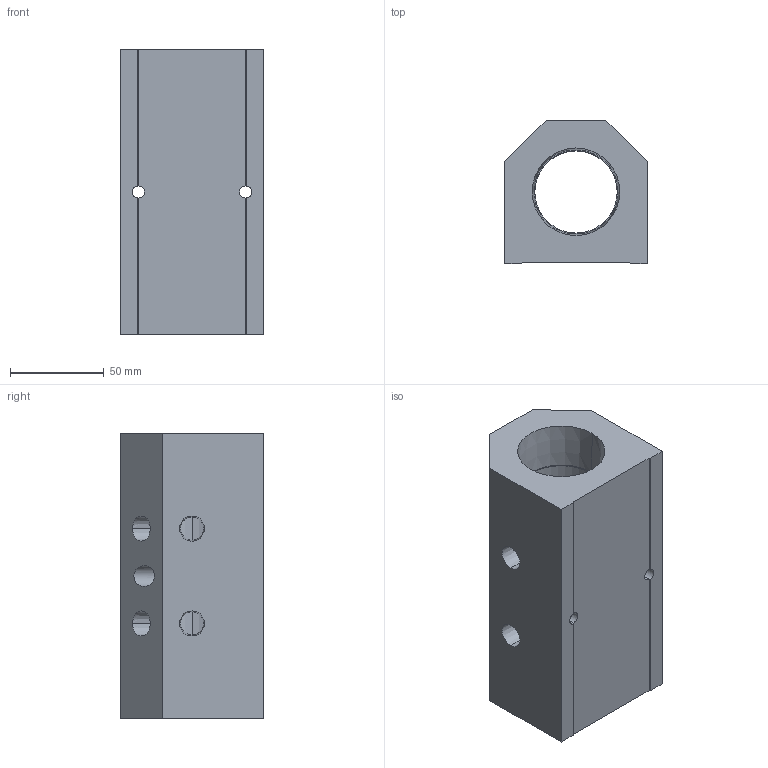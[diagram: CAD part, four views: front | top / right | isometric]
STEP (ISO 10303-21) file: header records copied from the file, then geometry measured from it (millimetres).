
FILE_DESCRIPTION (( 'STEP AP214' ), '1' );
FILE_NAME ('ALM2ABC-N4N24-152R.step', '2022-02-07T07:39:31', ( '' ), ( '' ), 'SwSTEP 2.0', 'SolidWorks 2020', '' );
FILE_SCHEMA (( 'AUTOMOTIVE_DESIGN' ));
Length unit declared in the file: millimetre
Products named in the file (1): ALM2ABC-N4N24-152R
Bounding box: 76.2 x 76.2 x 152 mm (x, y, z)
Volume: 547509.7 mm3; surface area: 76230.9 mm2
Topology: 1 solids, 1 shells, 308 faces, 817 edges, 542 vertices
Faces by surface type: plane 228, bspline 54, cone 16, cylinder 10
Entity records: 16621 total; most frequent: CARTESIAN_POINT 6280, ORIENTED_EDGE 1634, DIRECTION 1235, EDGE_CURVE 817, LINE 653, VECTOR 653, VERTEX_POINT 542, EDGE_LOOP 357
